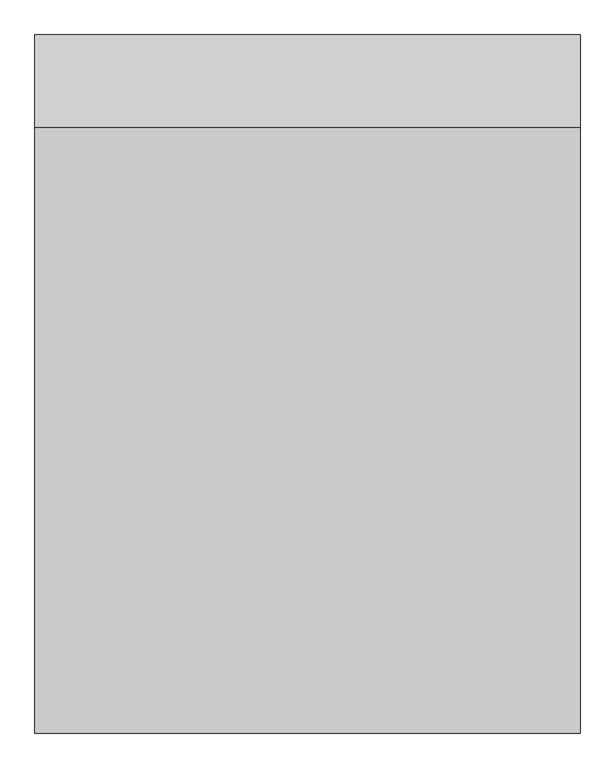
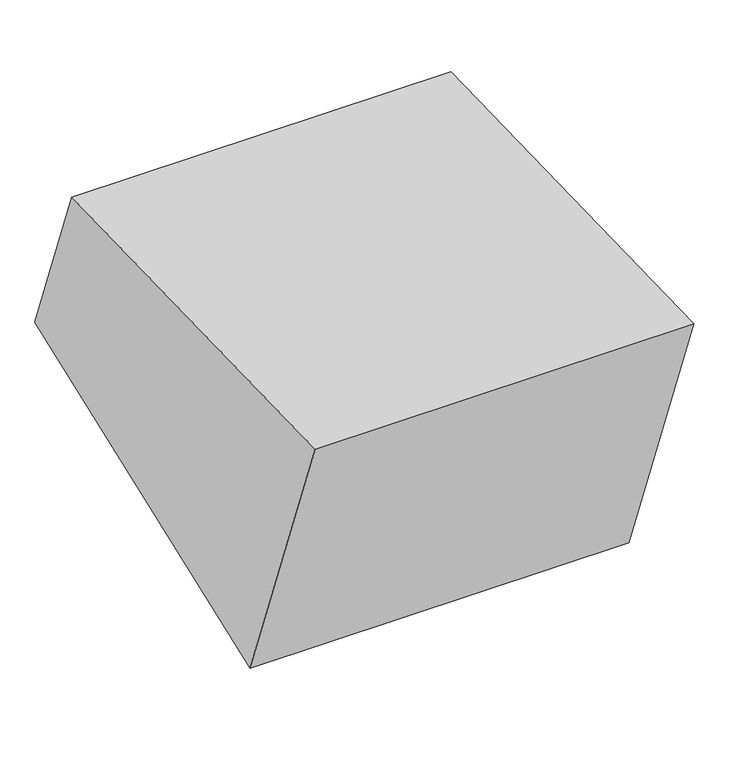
"""IFC4 building model written with IfcOpenShell, lengths in millimetres: proxy geometry, Excavation FamilySP : Excavation FamilySP."""

from ifc_helpers import new_model, si_unit, frame, origin, place, context, project, spatial, polyline, outline, extrude, source, transform, mapped, element, save


def generic_models_6456a392(model_context):
    return source(origin(), model_context, "Body", "SweptSolid", [
        extrude(outline(polyline([(-515.7132477, 1374.6238845), (0.0, 0.0), (-2997.6308092, -1124.6115664), (-3903.0419623, 1288.7446967), (-515.7132477, 1374.6238845)])), frame((-1524.0, 0.0, 0.0), z_axis=(1.0, 0.0, 0.0), x_axis=(0.0, 1.0, 0.0)), (0.0, 0.0, 1.0), 3048.0),
    ])


if __name__ == "__main__":
    model = new_model("IFC4")
    model_context = context("Model", 3, world=origin())
    ifc_project = project(units=[si_unit("LENGTHUNIT", "METRE", prefix="MILLI")], contexts=[model_context])
    site = spatial("IfcSite", under=ifc_project)
    building = spatial("IfcBuilding", under=site)
    placement = place(None, origin())
    generic_models_shape = generic_models_6456a392(model_context)
    element("IfcBuildingElementProxy", 1, Name="Excavation FamilySP : Excavation FamilySP", ObjectType="Excavation FamilySP : Excavation FamilySP", at=placement, inside=building, context=model_context, shape_type="MappedRepresentation", body=[
        mapped(generic_models_shape, transform((0.0, 0.0, 0.0), x_axis=(1.0, 0.0, 0.0), y_axis=(0.0, 1.0, 0.0), z_axis=(0.0, 0.0, 1.0))),
    ])
    save(model, "model.ifc")
